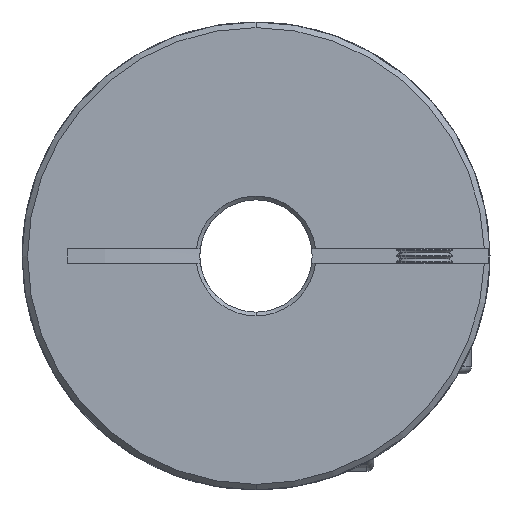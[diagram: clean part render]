
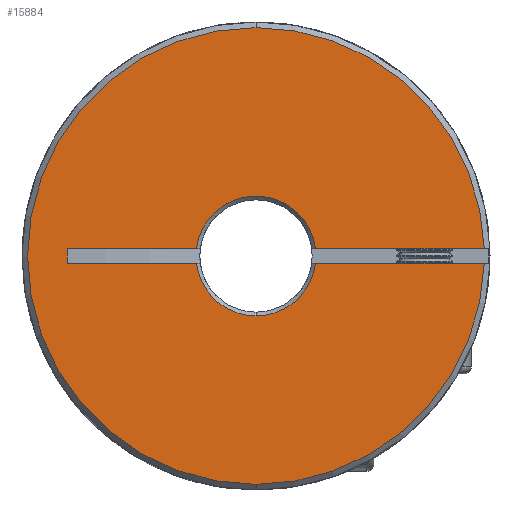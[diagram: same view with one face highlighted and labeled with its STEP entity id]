
A CAD part, front view. The second image highlights one B-rep face of the part: STEP entity #15884.
In plain terms, the highlighted planar face has unit normal (0, -1, 0).
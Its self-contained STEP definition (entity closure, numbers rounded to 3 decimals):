
#45 = VERTEX_POINT ( 'NONE', #10947 ) ;
#534 = EDGE_CURVE ( 'NONE', #10830, #15858, #10441, .T. ) ;
#552 = DIRECTION ( 'NONE',  ( 0., 0., 1. ) ) ;
#854 = CARTESIAN_POINT ( 'NONE',  ( 0., 0., 0. ) ) ;
#943 = EDGE_CURVE ( 'NONE', #16482, #13493, #7357, .T. ) ;
#1202 = DIRECTION ( 'NONE',  ( 1., 0., 0. ) ) ;
#1257 = PLANE ( 'NONE',  #13943 ) ;
#1855 = LINE ( 'NONE', #15896, #13423 ) ;
#1974 = ORIENTED_EDGE ( 'NONE', *, *, #4334, .T. ) ;
#2243 = ORIENTED_EDGE ( 'NONE', *, *, #943, .T. ) ;
#2470 = CARTESIAN_POINT ( 'NONE',  ( -50., 0., 0.75 ) ) ;
#2628 = LINE ( 'NONE', #17101, #15921 ) ;
#2678 = CARTESIAN_POINT ( 'NONE',  ( 0., 0., 0. ) ) ;
#2771 = ORIENTED_EDGE ( 'NONE', *, *, #12311, .T. ) ;
#2877 = DIRECTION ( 'NONE',  ( 0., 1., 0. ) ) ;
#2907 = CIRCLE ( 'NONE', #13883, 6.4 ) ;
#2922 = ORIENTED_EDGE ( 'NONE', *, *, #8124, .T. ) ;
#3690 = AXIS2_PLACEMENT_3D ( 'NONE', #8470, #7030, #15130 ) ;
#3759 = VECTOR ( 'NONE', #16385, 1000. ) ;
#3890 = CARTESIAN_POINT ( 'NONE',  ( -20.149, 0., 0.75 ) ) ;
#3936 = DIRECTION ( 'NONE',  ( 1., 0., 0. ) ) ;
#4245 = ORIENTED_EDGE ( 'NONE', *, *, #16411, .T. ) ;
#4314 = DIRECTION ( 'NONE',  ( 0., -1., 0. ) ) ;
#4323 = DIRECTION ( 'NONE',  ( 0., 1., 0. ) ) ;
#4334 = EDGE_CURVE ( 'NONE', #15418, #17123, #8955, .T. ) ;
#4343 = CIRCLE ( 'NONE', #17225, 24.4 ) ;
#5250 = CARTESIAN_POINT ( 'NONE',  ( -20.149, 0., -0.75 ) ) ;
#5550 = DIRECTION ( 'NONE',  ( 0., 1., 0. ) ) ;
#5790 = CARTESIAN_POINT ( 'NONE',  ( -50., 0., -0.75 ) ) ;
#6086 = ORIENTED_EDGE ( 'NONE', *, *, #12779, .F. ) ;
#6359 = CARTESIAN_POINT ( 'NONE',  ( 0., 0., 0. ) ) ;
#6579 = ORIENTED_EDGE ( 'NONE', *, *, #12355, .F. ) ;
#6686 = CARTESIAN_POINT ( 'NONE',  ( 0., 0., -6.4 ) ) ;
#6852 = CARTESIAN_POINT ( 'NONE',  ( 0., 0., 0. ) ) ;
#6871 = AXIS2_PLACEMENT_3D ( 'NONE', #6359, #7740, #9097 ) ;
#6959 = CARTESIAN_POINT ( 'NONE',  ( 0., 0., 0. ) ) ;
#7030 = DIRECTION ( 'NONE',  ( 0., 1., 0. ) ) ;
#7357 = CIRCLE ( 'NONE', #6871, 24.4 ) ;
#7569 = CARTESIAN_POINT ( 'NONE',  ( 0., 0., 24.4 ) ) ;
#7655 = CIRCLE ( 'NONE', #13837, 6.4 ) ;
#7740 = DIRECTION ( 'NONE',  ( 0., -1., 0. ) ) ;
#7907 = ORIENTED_EDGE ( 'NONE', *, *, #14709, .T. ) ;
#8124 = EDGE_CURVE ( 'NONE', #8765, #10909, #11160, .T. ) ;
#8232 = DIRECTION ( 'NONE',  ( 0., 0., 1. ) ) ;
#8234 = LINE ( 'NONE', #5790, #3759 ) ;
#8358 = EDGE_CURVE ( 'NONE', #12098, #8765, #11492, .T. ) ;
#8398 = CARTESIAN_POINT ( 'NONE',  ( 24.388, 0., 0.75 ) ) ;
#8416 = DIRECTION ( 'NONE',  ( 0., 0., 1. ) ) ;
#8470 = CARTESIAN_POINT ( 'NONE',  ( 0., 0., 0. ) ) ;
#8765 = VERTEX_POINT ( 'NONE', #3890 ) ;
#8823 = VECTOR ( 'NONE', #1202, 1000. ) ;
#8955 = CIRCLE ( 'NONE', #16965, 24.4 ) ;
#9097 = DIRECTION ( 'NONE',  ( 0., 0., 1. ) ) ;
#9603 = CARTESIAN_POINT ( 'NONE',  ( -50., 0., 32.858 ) ) ;
#9626 = DIRECTION ( 'NONE',  ( 0., -1., 0. ) ) ;
#9774 = DIRECTION ( 'NONE',  ( 0., 0., 1. ) ) ;
#10441 = CIRCLE ( 'NONE', #3690, 6.4 ) ;
#10601 = ORIENTED_EDGE ( 'NONE', *, *, #14323, .T. ) ;
#10830 = VERTEX_POINT ( 'NONE', #12402 ) ;
#10909 = VERTEX_POINT ( 'NONE', #14274 ) ;
#10947 = CARTESIAN_POINT ( 'NONE',  ( 6.356, 0., 0.75 ) ) ;
#11160 = LINE ( 'NONE', #2470, #8823 ) ;
#11237 = VERTEX_POINT ( 'NONE', #15050 ) ;
#11492 = LINE ( 'NONE', #16623, #14181 ) ;
#11634 = DIRECTION ( 'NONE',  ( 1., 0., 0. ) ) ;
#11670 = EDGE_LOOP ( 'NONE', ( #6579, #16588, #4245, #6086, #14816, #2922, #2771, #7907, #1974, #10601, #2243 ) ) ;
#12098 = VERTEX_POINT ( 'NONE', #5250 ) ;
#12311 = EDGE_CURVE ( 'NONE', #10909, #45, #2907, .T. ) ;
#12355 = EDGE_CURVE ( 'NONE', #10830, #13493, #8234, .T. ) ;
#12384 = DIRECTION ( 'NONE',  ( 0., 0., 1. ) ) ;
#12402 = CARTESIAN_POINT ( 'NONE',  ( 6.356, 0., -0.75 ) ) ;
#12779 = EDGE_CURVE ( 'NONE', #12098, #11237, #1855, .T. ) ;
#12850 = FACE_OUTER_BOUND ( 'NONE', #11670, .T. ) ;
#13423 = VECTOR ( 'NONE', #3936, 1000. ) ;
#13493 = VERTEX_POINT ( 'NONE', #16755 ) ;
#13579 = CARTESIAN_POINT ( 'NONE',  ( 0., 0., -24.4 ) ) ;
#13837 = AXIS2_PLACEMENT_3D ( 'NONE', #6959, #2877, #8416 ) ;
#13883 = AXIS2_PLACEMENT_3D ( 'NONE', #6852, #5550, #8232 ) ;
#13943 = AXIS2_PLACEMENT_3D ( 'NONE', #9603, #4323, #12384 ) ;
#14181 = VECTOR ( 'NONE', #552, 1000. ) ;
#14274 = CARTESIAN_POINT ( 'NONE',  ( -6.356, 0., 0.75 ) ) ;
#14323 = EDGE_CURVE ( 'NONE', #17123, #16482, #4343, .T. ) ;
#14709 = EDGE_CURVE ( 'NONE', #45, #15418, #2628, .T. ) ;
#14816 = ORIENTED_EDGE ( 'NONE', *, *, #8358, .T. ) ;
#15050 = CARTESIAN_POINT ( 'NONE',  ( -6.356, 0., -0.75 ) ) ;
#15130 = DIRECTION ( 'NONE',  ( 0., 0., 1. ) ) ;
#15418 = VERTEX_POINT ( 'NONE', #8398 ) ;
#15858 = VERTEX_POINT ( 'NONE', #6686 ) ;
#15884 = ADVANCED_FACE ( 'NONE', ( #12850 ), #1257, .F. ) ;
#15896 = CARTESIAN_POINT ( 'NONE',  ( -50., 0., -0.75 ) ) ;
#15921 = VECTOR ( 'NONE', #11634, 1000. ) ;
#16080 = DIRECTION ( 'NONE',  ( 0., 0., 1. ) ) ;
#16385 = DIRECTION ( 'NONE',  ( 1., 0., 0. ) ) ;
#16411 = EDGE_CURVE ( 'NONE', #15858, #11237, #7655, .T. ) ;
#16482 = VERTEX_POINT ( 'NONE', #13579 ) ;
#16588 = ORIENTED_EDGE ( 'NONE', *, *, #534, .T. ) ;
#16623 = CARTESIAN_POINT ( 'NONE',  ( -20.149, 0., -0.75 ) ) ;
#16755 = CARTESIAN_POINT ( 'NONE',  ( 24.388, 0., -0.75 ) ) ;
#16965 = AXIS2_PLACEMENT_3D ( 'NONE', #854, #4314, #9774 ) ;
#17101 = CARTESIAN_POINT ( 'NONE',  ( -50., 0., 0.75 ) ) ;
#17123 = VERTEX_POINT ( 'NONE', #7569 ) ;
#17225 = AXIS2_PLACEMENT_3D ( 'NONE', #2678, #9626, #16080 ) ;
